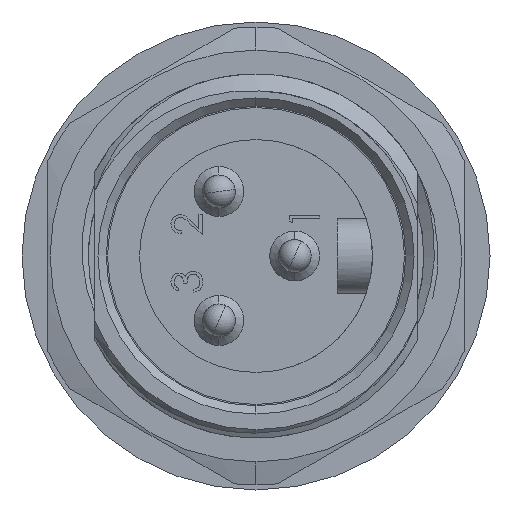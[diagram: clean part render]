
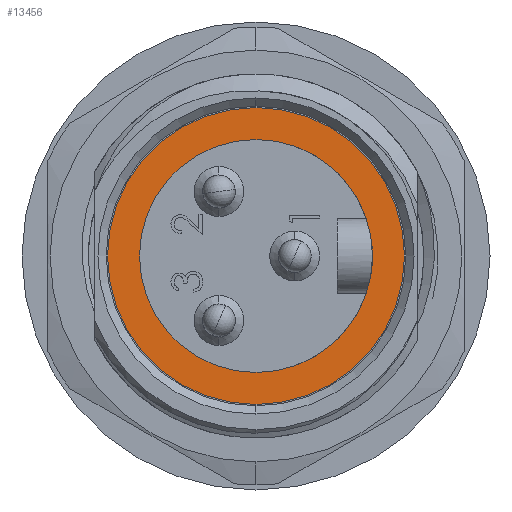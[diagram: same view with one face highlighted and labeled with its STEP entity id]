
A CAD part, left-side view. The second image highlights one B-rep face of the part: STEP entity #13456.
In plain terms, the highlighted planar face has unit normal (-1, 0, 0).
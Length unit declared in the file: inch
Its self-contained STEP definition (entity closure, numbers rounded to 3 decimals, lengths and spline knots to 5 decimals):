
#3731 = AXIS2_PLACEMENT_3D ( 'NONE', #18833, #18834, #18835 ) ;
#7751 = EDGE_CURVE ( 'NONE', #14042, #14044, #8725, .T. ) ;
#7752 = EDGE_CURVE ( 'NONE', #14047, #14026, #8695, .T. ) ;
#7879 = CARTESIAN_POINT ( 'NONE',  ( 0.06, 0., 0. ) ) ;
#7880 = DIRECTION ( 'NONE',  ( -1., 0., 0. ) ) ;
#7881 = DIRECTION ( 'NONE',  ( 0., 0., 1. ) ) ;
#7882 = CARTESIAN_POINT ( 'NONE',  ( 0.06, 0., 0. ) ) ;
#7883 = DIRECTION ( 'NONE',  ( -1., 0., 0. ) ) ;
#7884 = DIRECTION ( 'NONE',  ( 0., 0., 1. ) ) ;
#8695 = CIRCLE ( 'NONE', #8708, 0.357 ) ;
#8705 = AXIS2_PLACEMENT_3D ( 'NONE', #7879, #7880, #7881 ) ;
#8708 = AXIS2_PLACEMENT_3D ( 'NONE', #7882, #7883, #7884 ) ;
#8725 = CIRCLE ( 'NONE', #8705, 0.28 ) ;
#9254 = ORIENTED_EDGE ( 'NONE', *, *, #7751, .F. ) ;
#9255 = ORIENTED_EDGE ( 'NONE', *, *, #37174, .F. ) ;
#9256 = ORIENTED_EDGE ( 'NONE', *, *, #37179, .T. ) ;
#9257 = ORIENTED_EDGE ( 'NONE', *, *, #7752, .T. ) ;
#13254 = FACE_BOUND ( 'NONE', #13885, .T. ) ;
#13255 = FACE_OUTER_BOUND ( 'NONE', #13909, .T. ) ;
#13456 = ADVANCED_FACE ( 'NONE', ( #13254, #13255 ), #18832, .F. ) ;
#13885 = EDGE_LOOP ( 'NONE', ( #9254, #9255 ) ) ;
#13909 = EDGE_LOOP ( 'NONE', ( #9256, #9257 ) ) ;
#14026 = VERTEX_POINT ( 'NONE', #19641 ) ;
#14042 = VERTEX_POINT ( 'NONE', #19657 ) ;
#14044 = VERTEX_POINT ( 'NONE', #19659 ) ;
#14047 = VERTEX_POINT ( 'NONE', #19662 ) ;
#16123 = CIRCLE ( 'NONE', #16142, 0.357 ) ;
#16129 = CIRCLE ( 'NONE', #16135, 0.28 ) ;
#16135 = AXIS2_PLACEMENT_3D ( 'NONE', #24447, #24448, #24449 ) ;
#16142 = AXIS2_PLACEMENT_3D ( 'NONE', #24459, #24460, #24461 ) ;
#18832 = PLANE ( 'NONE',  #3731 ) ;
#18833 = CARTESIAN_POINT ( 'NONE',  ( 0.06, 0.28, 0. ) ) ;
#18834 = DIRECTION ( 'NONE',  ( 1., 0., 0. ) ) ;
#18835 = DIRECTION ( 'NONE',  ( 0., 0., -1. ) ) ;
#19641 = CARTESIAN_POINT ( 'NONE',  ( 0.06, 0., 0.357 ) ) ;
#19657 = CARTESIAN_POINT ( 'NONE',  ( 0.06, 0., 0.28 ) ) ;
#19659 = CARTESIAN_POINT ( 'NONE',  ( 0.06, 0., -0.28 ) ) ;
#19662 = CARTESIAN_POINT ( 'NONE',  ( 0.06, 0., -0.357 ) ) ;
#24447 = CARTESIAN_POINT ( 'NONE',  ( 0.06, 0., 0. ) ) ;
#24448 = DIRECTION ( 'NONE',  ( -1., 0., 0. ) ) ;
#24449 = DIRECTION ( 'NONE',  ( 0., 0., 1. ) ) ;
#24459 = CARTESIAN_POINT ( 'NONE',  ( 0.06, 0., 0. ) ) ;
#24460 = DIRECTION ( 'NONE',  ( -1., 0., 0. ) ) ;
#24461 = DIRECTION ( 'NONE',  ( 0., 0., 1. ) ) ;
#37174 = EDGE_CURVE ( 'NONE', #14044, #14042, #16129, .T. ) ;
#37179 = EDGE_CURVE ( 'NONE', #14026, #14047, #16123, .T. ) ;
